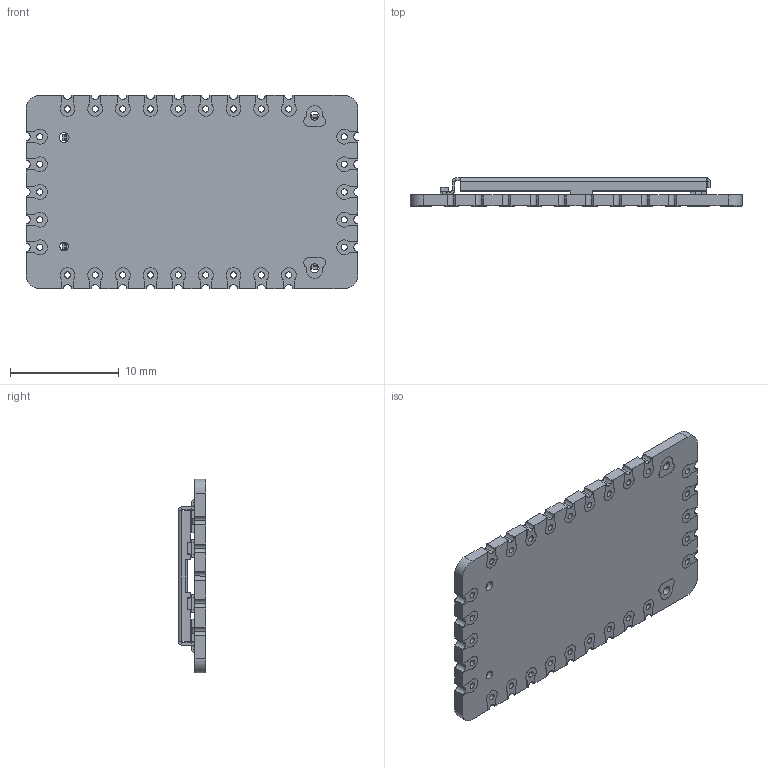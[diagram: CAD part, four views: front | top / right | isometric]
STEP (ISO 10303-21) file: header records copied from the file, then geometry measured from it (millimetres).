
FILE_DESCRIPTION (( 'STEP AP214' ), '1' );
FILE_NAME ('EmStatPico.STEP', '2019-02-28T12:52:44', ( '' ), ( '' ), 'SwSTEP 2.0', 'SolidWorks 2019', '' );
FILE_SCHEMA (( 'AUTOMOTIVE_DESIGN' ));
Length unit declared in the file: millimetre
Products named in the file (17): ES-Pico-Can-Rev3; D2^ES_pico_V1-1(2)_ES_pico_V1-1; base^WL-SMCW_0603_LED_D1_ES_pico_V1-1(2)_ES_pico_V1-1; base^WL-SMCW_0603_LED_D2_ES_pico_V1-1(2)_ES_pico_V1-1; EmStatPico; ES-Pico-PCB-v1-0; Polarity_Mark^WL-SMCW_0603_LED_D2_ES_pico_V1-1(2)_ES_pico_V1-1; WL-SMCW_0603_LED^D1_ES_pico_V1-1(2)_ES_pico_V1-1; housing^WL-SMCW_0603_LED_D1_ES_pico_V1-1(2)_ES_pico_V1-1; ES_pico_V1-1; cover^WL-SMCW_0603_LED_D2_ES_pico_V1-1(2)_ES_pico_V1-1; ES_pico_V1-1(2)^ES_pico_V1-1; Polarity_Mark^WL-SMCW_0603_LED_D1_ES_pico_V1-1(2)_ES_pico_V1-1; D1^ES_pico_V1-1(2)_ES_pico_V1-1; WL-SMCW_0603_LED^D2_ES_pico_V1-1(2)_ES_pico_V1-1; housing^WL-SMCW_0603_LED_D2_ES_pico_V1-1(2)_ES_pico_V1-1; cover^WL-SMCW_0603_LED_D1_ES_pico_V1-1(2)_ES_pico_V1-1
Assembly tree (18 placements, depth 6):
  EmStatPico
    ES_pico_V1-1
      ES_pico_V1-1(2)^ES_pico_V1-1
        D1^ES_pico_V1-1(2)_ES_pico_V1-1
          WL-SMCW_0603_LED^D1_ES_pico_V1-1(2)_ES_pico_V1-1
            housing^WL-SMCW_0603_LED_D1_ES_pico_V1-1(2)_ES_pico_V1-1
            cover^WL-SMCW_0603_LED_D1_ES_pico_V1-1(2)_ES_pico_V1-1
            base^WL-SMCW_0603_LED_D1_ES_pico_V1-1(2)_ES_pico_V1-1  x2
            Polarity_Mark^WL-SMCW_0603_LED_D1_ES_pico_V1-1(2)_ES_pico_V1-1
        D2^ES_pico_V1-1(2)_ES_pico_V1-1
          WL-SMCW_0603_LED^D2_ES_pico_V1-1(2)_ES_pico_V1-1
            housing^WL-SMCW_0603_LED_D2_ES_pico_V1-1(2)_ES_pico_V1-1
            cover^WL-SMCW_0603_LED_D2_ES_pico_V1-1(2)_ES_pico_V1-1
            base^WL-SMCW_0603_LED_D2_ES_pico_V1-1(2)_ES_pico_V1-1  x2
            Polarity_Mark^WL-SMCW_0603_LED_D2_ES_pico_V1-1(2)_ES_pico_V1-1
      ES-Pico-PCB-v1-0
    ES-Pico-Can-Rev3
Bounding box: 30.48 x 2.56 x 17.78 mm (x, y, z)
Volume: 617.4 mm3; surface area: 1981.8 mm2
Topology: 12 solids, 12 shells, 768 faces, 2098 edges, 1360 vertices
Faces by surface type: plane 444, cylinder 316, sphere 8
Entity records: 29628 total; most frequent: CARTESIAN_POINT 4227, DIRECTION 4142, ORIENTED_EDGE 4060, EDGE_CURVE 2030, VECTOR 1400, LINE 1400, AXIS2_PLACEMENT_3D 1371, VERTEX_POINT 1316
